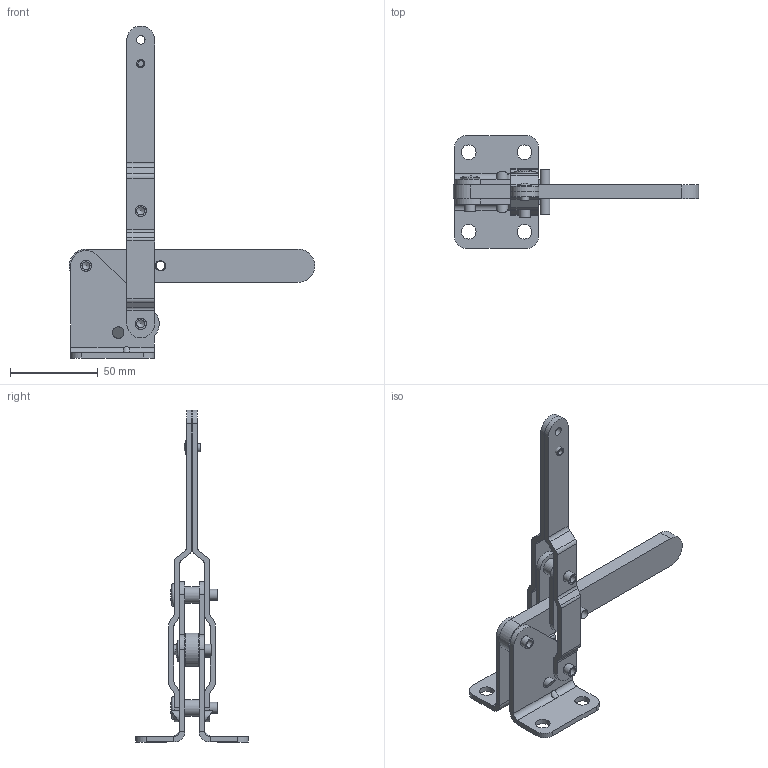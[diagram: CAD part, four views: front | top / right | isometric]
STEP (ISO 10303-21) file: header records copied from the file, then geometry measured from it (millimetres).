
FILE_DESCRIPTION(/* description */ (''),/* implementation_level */ '2;1');
FILE_NAME(/* name */ 'vst-600',/* time_stamp */ '2004-04-08T10:47:20-04:00',/* author */ (''),/* organization */ (''),/* preprocessor_version */ 'ST-DEVELOPER v9',/* originating_system */ 'EDS PLM SOLUTIONS - UNIGRAPHICS NX 1.0',/* authorisation */ '');
FILE_SCHEMA (('AUTOMOTIVE_DESIGN { 1 0 10303 214 0 1 1 1 }'));
Length unit declared in the file: inch
Products named in the file (1): mfur8F8C004x
Bounding box: 139.7 x 64.29 x 188.97 mm (x, y, z)
Volume: 126001.4 mm3; surface area: 90017.4 mm2
Topology: 30 solids, 30 shells, 1002 faces, 2628 edges, 1750 vertices
Faces by surface type: plane 778, cylinder 186, torus 18, cone 10, bspline 8, sphere 2
Full cylindrical faces by diameter (mm): 3.353 x2, 4.572 x8, 4.724 x2, 4.851 x4, 5.41 x2, 5.537 x2, 5.563 x2, 6.299 x8, 6.426 x20, 6.452 x4, 6.604 x4, 8.382 x8, 9.525 x4, 9.601 x8
Entity records: 30137 total; most frequent: CARTESIAN_POINT 5537, ORIENTED_EDGE 4896, DIRECTION 4810, EDGE_CURVE 2448, LINE 2052, VECTOR 2052, VERTEX_POINT 1698, AXIS2_PLACEMENT_3D 1379
